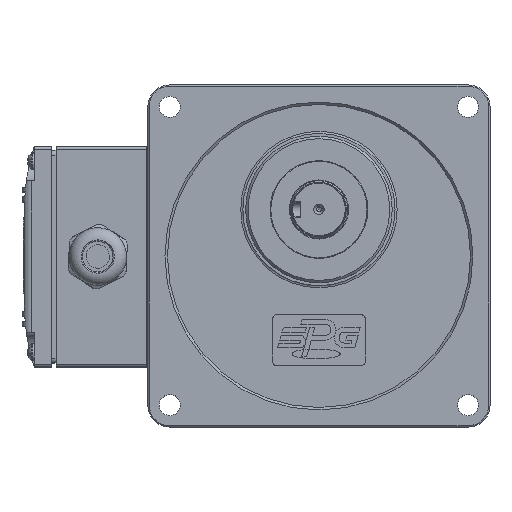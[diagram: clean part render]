
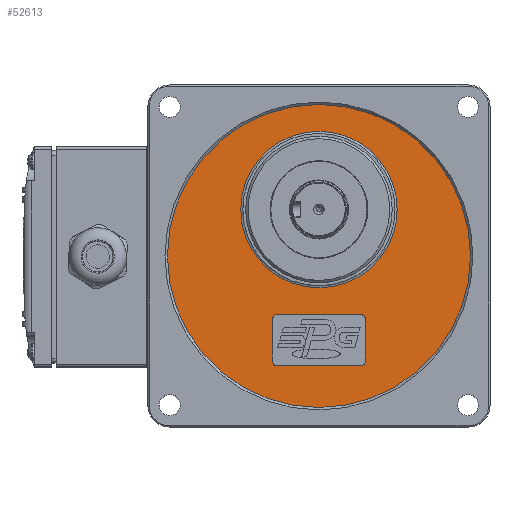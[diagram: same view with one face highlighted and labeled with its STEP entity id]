
A CAD part, top view. The second image highlights one B-rep face of the part: STEP entity #52613.
In plain terms, the highlighted planar face has unit normal (0, 0, 1).
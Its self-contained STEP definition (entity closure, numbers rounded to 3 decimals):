
#5878=FACE_BOUND('',#11734,.T.);
#5879=FACE_BOUND('',#11735,.T.);
#6672=PLANE('',#57212);
#8437=FACE_OUTER_BOUND('',#11733,.T.);
#11733=EDGE_LOOP('',(#42166));
#11734=EDGE_LOOP('',(#42167,#42168,#42169,#42170,#42171,#42172,#42173,#42174));
#11735=EDGE_LOOP('',(#42175));
#15616=LINE('',#85883,#18488);
#15620=LINE('',#85893,#18492);
#15623=LINE('',#85901,#18495);
#15625=LINE('',#85907,#18497);
#18488=VECTOR('',#67569,34.);
#18492=VECTOR('',#67579,17.);
#18495=VECTOR('',#67588,34.);
#18497=VECTOR('',#67596,17.);
#20780=CIRCLE('',#57199,2.);
#20781=CIRCLE('',#57202,2.);
#20782=CIRCLE('',#57205,2.);
#20783=CIRCLE('',#57208,2.);
#20784=CIRCLE('',#57210,62.);
#20786=CIRCLE('',#57213,32.);
#24846=VERTEX_POINT('',#85879);
#24847=VERTEX_POINT('',#85881);
#24848=VERTEX_POINT('',#85885);
#24849=VERTEX_POINT('',#85889);
#24850=VERTEX_POINT('',#85891);
#24851=VERTEX_POINT('',#85897);
#24852=VERTEX_POINT('',#85899);
#24853=VERTEX_POINT('',#85905);
#24854=VERTEX_POINT('',#85911);
#24856=VERTEX_POINT('',#85917);
#30886=EDGE_CURVE('',#24846,#24847,#15616,.T.);
#30888=EDGE_CURVE('',#24848,#24847,#20780,.T.);
#30891=EDGE_CURVE('',#24849,#24850,#15620,.T.);
#30892=EDGE_CURVE('',#24846,#24850,#20781,.T.);
#30895=EDGE_CURVE('',#24851,#24852,#15623,.T.);
#30896=EDGE_CURVE('',#24849,#24852,#20782,.T.);
#30898=EDGE_CURVE('',#24848,#24853,#15625,.T.);
#30899=EDGE_CURVE('',#24851,#24853,#20783,.T.);
#30900=EDGE_CURVE('',#24854,#24854,#20784,.T.);
#30903=EDGE_CURVE('',#24856,#24856,#20786,.T.);
#42166=ORIENTED_EDGE('',*,*,#30900,.T.);
#42167=ORIENTED_EDGE('',*,*,#30891,.T.);
#42168=ORIENTED_EDGE('',*,*,#30892,.F.);
#42169=ORIENTED_EDGE('',*,*,#30886,.T.);
#42170=ORIENTED_EDGE('',*,*,#30888,.F.);
#42171=ORIENTED_EDGE('',*,*,#30898,.T.);
#42172=ORIENTED_EDGE('',*,*,#30899,.F.);
#42173=ORIENTED_EDGE('',*,*,#30895,.T.);
#42174=ORIENTED_EDGE('',*,*,#30896,.F.);
#42175=ORIENTED_EDGE('',*,*,#30903,.F.);
#52613=ADVANCED_FACE('',(#8437,#5878,#5879),#6672,.F.);
#57199=AXIS2_PLACEMENT_3D('',#85887,#67573,#67574);
#57202=AXIS2_PLACEMENT_3D('',#85895,#67582,#67583);
#57205=AXIS2_PLACEMENT_3D('',#85903,#67591,#67592);
#57208=AXIS2_PLACEMENT_3D('',#85909,#67599,#67600);
#57210=AXIS2_PLACEMENT_3D('',#85912,#67603,#67604);
#57212=AXIS2_PLACEMENT_3D('',#85916,#67608,#67609);
#57213=AXIS2_PLACEMENT_3D('',#85918,#67610,#67611);
#67569=DIRECTION('',(1.,0.,0.));
#67573=DIRECTION('center_axis',(0.,0.,1.));
#67574=DIRECTION('ref_axis',(0.707,0.707,0.));
#67579=DIRECTION('',(0.,1.,0.));
#67582=DIRECTION('center_axis',(0.,0.,1.));
#67583=DIRECTION('ref_axis',(-0.707,0.707,0.));
#67588=DIRECTION('',(-1.,0.,0.));
#67591=DIRECTION('center_axis',(0.,0.,1.));
#67592=DIRECTION('ref_axis',(-0.707,-0.707,0.));
#67596=DIRECTION('',(0.,-1.,0.));
#67599=DIRECTION('center_axis',(0.,0.,1.));
#67600=DIRECTION('ref_axis',(0.707,-0.707,0.));
#67603=DIRECTION('center_axis',(0.,0.,1.));
#67604=DIRECTION('ref_axis',(-1.,0.,0.));
#67608=DIRECTION('center_axis',(0.,0.,-1.));
#67609=DIRECTION('ref_axis',(-1.,0.,0.));
#67610=DIRECTION('center_axis',(0.,0.,1.));
#67611=DIRECTION('ref_axis',(-1.,0.,0.));
#85879=CARTESIAN_POINT('',(-32.599,-16.717,31.5));
#85881=CARTESIAN_POINT('',(1.401,-16.717,31.5));
#85883=CARTESIAN_POINT('',(-32.599,-16.717,31.5));
#85885=CARTESIAN_POINT('',(3.401,-18.717,31.5));
#85887=CARTESIAN_POINT('Origin',(1.401,-18.717,31.5));
#85889=CARTESIAN_POINT('',(-34.599,-35.717,31.5));
#85891=CARTESIAN_POINT('',(-34.599,-18.717,31.5));
#85893=CARTESIAN_POINT('',(-34.599,-35.717,31.5));
#85895=CARTESIAN_POINT('Origin',(-32.599,-18.717,31.5));
#85897=CARTESIAN_POINT('',(1.401,-37.717,31.5));
#85899=CARTESIAN_POINT('',(-32.599,-37.717,31.5));
#85901=CARTESIAN_POINT('',(1.401,-37.717,31.5));
#85903=CARTESIAN_POINT('Origin',(-32.599,-35.717,31.5));
#85905=CARTESIAN_POINT('',(3.401,-35.717,31.5));
#85907=CARTESIAN_POINT('',(3.401,-18.717,31.5));
#85909=CARTESIAN_POINT('Origin',(1.401,-35.717,31.5));
#85911=CARTESIAN_POINT('',(46.401,7.283,31.5));
#85912=CARTESIAN_POINT('Origin',(-15.599,7.283,31.5));
#85916=CARTESIAN_POINT('Origin',(-15.599,7.283,31.5));
#85917=CARTESIAN_POINT('',(-47.599,26.283,31.5));
#85918=CARTESIAN_POINT('Origin',(-15.599,26.283,31.5));
